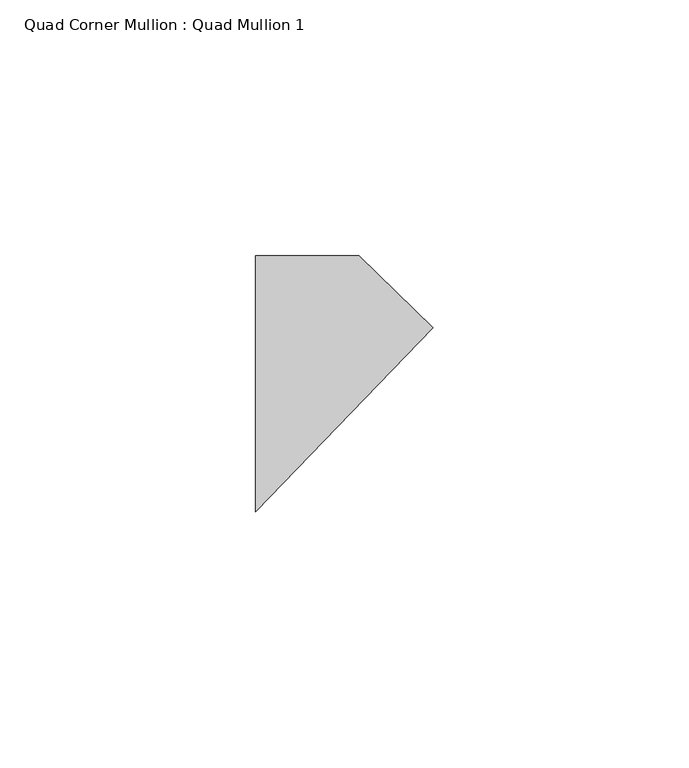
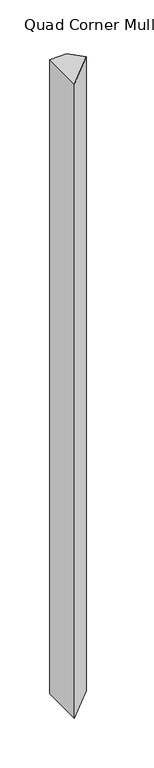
"""IFC4 building model written with IfcOpenShell, lengths in millimetres: member geometry, Quad Corner Mullion : Quad Mullion 1."""

from ifc_helpers import new_model, si_unit, frame, origin, place, context, project, spatial, polyline, outline, extrude, source, transform, mapped, element, save


def quad_corner_mullion_quad_mullion_1_96de8131(model_context):
    return source(origin(), model_context, "Body", "SweptSolid", [
        extrude(outline(polyline([(24.6322629, 10.96699), (-10.1006556, -25.0), (-10.1006556, 25.0), (10.1006556, 25.0), (24.6322629, 10.96699)])), frame((0.0, 0.0, -780.0), z_axis=(0.0, 0.0, 1.0), x_axis=(1.0, 0.0, 0.0)), (0.0, 0.0, 1.0), 780.0),
    ])


if __name__ == "__main__":
    model = new_model("IFC4")
    model_context = context("Model", 3, world=origin())
    ifc_project = project(units=[si_unit("LENGTHUNIT", "METRE", prefix="MILLI")], contexts=[model_context])
    site = spatial("IfcSite", under=ifc_project)
    building = spatial("IfcBuilding", under=site)
    placement = place(None, origin())
    quad_corner_mullion_quad_mullion_1_shape = quad_corner_mullion_quad_mullion_1_96de8131(model_context)
    element("IfcMember", 1, ObjectType="Quad Corner Mullion : Quad Mullion 1", at=placement, inside=building, context=model_context, shape_type="MappedRepresentation", body=[
        mapped(quad_corner_mullion_quad_mullion_1_shape, transform((0.0, 0.0, 0.0), x_axis=(1.0, 0.0, 0.0), y_axis=(0.0, 1.0, 0.0), z_axis=(0.0, 0.0, 1.0))),
    ])
    save(model, "model.ifc")
